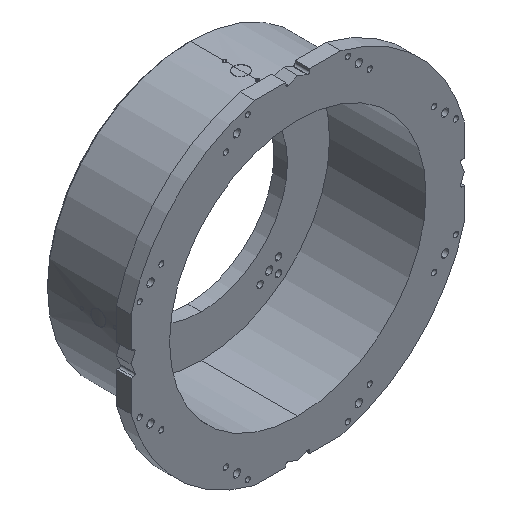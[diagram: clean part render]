
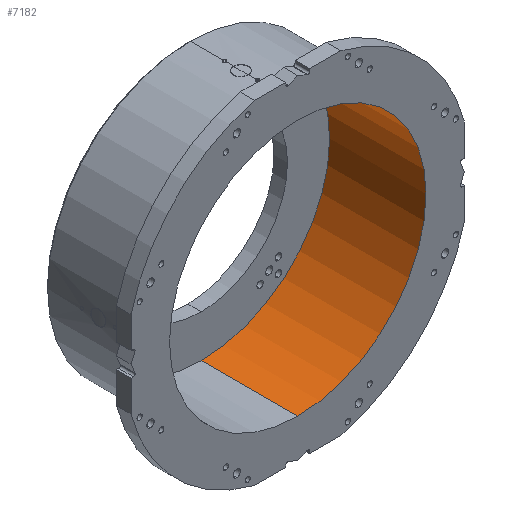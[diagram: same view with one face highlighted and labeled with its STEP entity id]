
A CAD part, isometric view. The second image highlights one B-rep face of the part: STEP entity #7182.
In plain terms, the highlighted cylindrical face has radius 350 mm (diameter 700 mm), a partial arc.
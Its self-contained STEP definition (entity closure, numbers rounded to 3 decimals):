
#95 = CARTESIAN_POINT ( 'NONE',  ( 0., 0., -350. ) ) ;
#104 = CARTESIAN_POINT ( 'NONE',  ( 0., 263., 350. ) ) ;
#597 = AXIS2_PLACEMENT_3D ( 'NONE', #5197, #3143, #3000 ) ;
#754 = DIRECTION ( 'NONE',  ( 0., 1., 0. ) ) ;
#855 = VECTOR ( 'NONE', #754, 1000. ) ;
#1312 = DIRECTION ( 'NONE',  ( 0., 1., 0. ) ) ;
#1483 = AXIS2_PLACEMENT_3D ( 'NONE', #2759, #1312, #2034 ) ;
#1866 = VERTEX_POINT ( 'NONE', #7539 ) ;
#1896 = CARTESIAN_POINT ( 'NONE',  ( 0., 0., 350. ) ) ;
#2024 = EDGE_CURVE ( 'NONE', #5161, #8405, #5308, .T. ) ;
#2034 = DIRECTION ( 'NONE',  ( 0., 0., 1. ) ) ;
#2759 = CARTESIAN_POINT ( 'NONE',  ( 0., 0., 0. ) ) ;
#3000 = DIRECTION ( 'NONE',  ( 0., 0., 1. ) ) ;
#3143 = DIRECTION ( 'NONE',  ( 0., 1., 0. ) ) ;
#3574 = ORIENTED_EDGE ( 'NONE', *, *, #5996, .F. ) ;
#3968 = CYLINDRICAL_SURFACE ( 'NONE', #7309, 350. ) ;
#4461 = EDGE_CURVE ( 'NONE', #8405, #1866, #5372, .T. ) ;
#4631 = VERTEX_POINT ( 'NONE', #6697 ) ;
#5161 = VERTEX_POINT ( 'NONE', #8343 ) ;
#5171 = EDGE_CURVE ( 'NONE', #5161, #4631, #6995, .T. ) ;
#5197 = CARTESIAN_POINT ( 'NONE',  ( 0., 263., 0. ) ) ;
#5308 = LINE ( 'NONE', #1896, #855 ) ;
#5372 = CIRCLE ( 'NONE', #597, 350. ) ;
#5626 = ORIENTED_EDGE ( 'NONE', *, *, #5171, .F. ) ;
#5835 = VECTOR ( 'NONE', #7580, 1000. ) ;
#5976 = ORIENTED_EDGE ( 'NONE', *, *, #2024, .T. ) ;
#5996 = EDGE_CURVE ( 'NONE', #4631, #1866, #6263, .T. ) ;
#6263 = LINE ( 'NONE', #95, #5835 ) ;
#6697 = CARTESIAN_POINT ( 'NONE',  ( 0., 0., -350. ) ) ;
#6995 = CIRCLE ( 'NONE', #1483, 350. ) ;
#7160 = EDGE_LOOP ( 'NONE', ( #3574, #5626, #5976, #7623 ) ) ;
#7182 = ADVANCED_FACE ( 'NONE', ( #7470 ), #3968, .F. ) ;
#7309 = AXIS2_PLACEMENT_3D ( 'NONE', #8742, #8693, #8148 ) ;
#7470 = FACE_OUTER_BOUND ( 'NONE', #7160, .T. ) ;
#7539 = CARTESIAN_POINT ( 'NONE',  ( 0., 263., -350. ) ) ;
#7580 = DIRECTION ( 'NONE',  ( 0., 1., 0. ) ) ;
#7623 = ORIENTED_EDGE ( 'NONE', *, *, #4461, .T. ) ;
#8148 = DIRECTION ( 'NONE',  ( 0., 0., 1. ) ) ;
#8343 = CARTESIAN_POINT ( 'NONE',  ( 0., 0., 350. ) ) ;
#8405 = VERTEX_POINT ( 'NONE', #104 ) ;
#8693 = DIRECTION ( 'NONE',  ( 0., 1., 0. ) ) ;
#8742 = CARTESIAN_POINT ( 'NONE',  ( 0., 0., 0. ) ) ;
